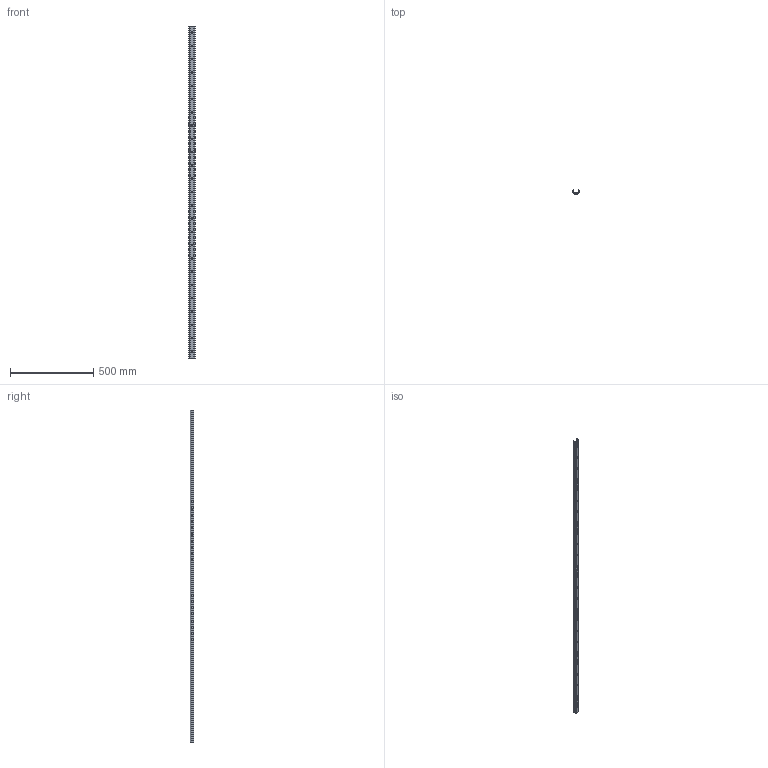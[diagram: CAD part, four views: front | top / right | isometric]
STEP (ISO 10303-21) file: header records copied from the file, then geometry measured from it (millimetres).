
FILE_DESCRIPTION(('STEP AP214'),'1');
FILE_NAME('rail_tex40-2000.stp','2019-03-08T08:33:32',('TraceParts'),('TraceParts S.A.'),'Spatial InterOp 3D',' ',' ');
FILE_SCHEMA(('automotive_design'));
Length unit declared in the file: millimetre
Products named in the file (1): rail_tex40-2000
Bounding box: 39.53 x 21 x 2000 mm (x, y, z)
Volume: 391029.7 mm3; surface area: 275543.8 mm2
Topology: 1 solids, 1 shells, 452 faces, 1173 edges, 782 vertices
Faces by surface type: plane 317, bspline 73, cylinder 62
Entity records: 28620 total; most frequent: CARTESIAN_POINT 14157, ORIENTED_EDGE 2346, DIRECTION 1911, EDGE_CURVE 1173, LINE 903, VECTOR 903, VERTEX_POINT 782, EDGE_LOOP 561
